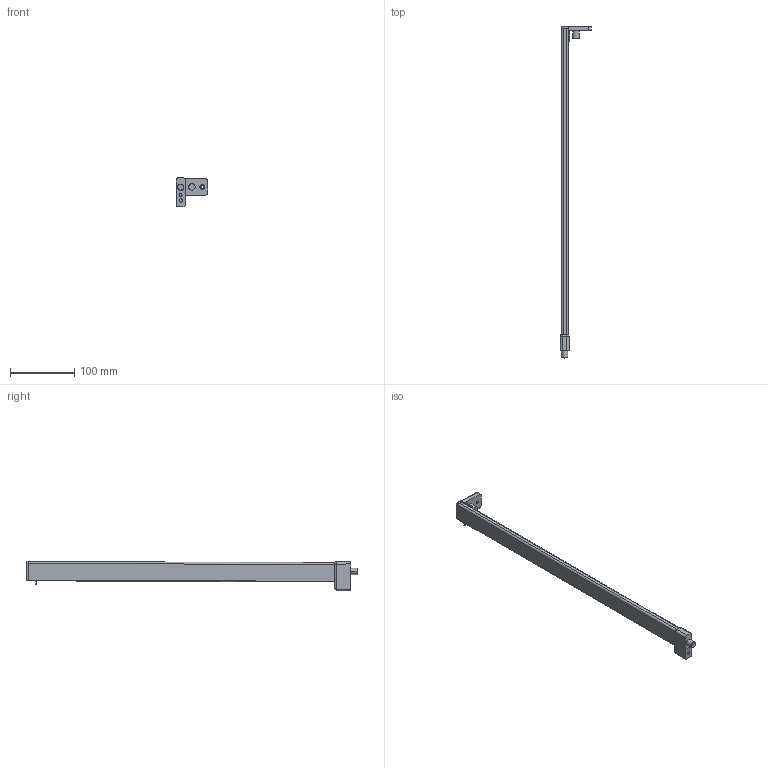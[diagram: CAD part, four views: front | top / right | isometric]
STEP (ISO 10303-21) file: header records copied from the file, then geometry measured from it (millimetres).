
FILE_DESCRIPTION (( 'STEP AP214' ), '1' );
FILE_NAME ('_2S_REL_7606_NL500_LI.step', '2010-07-01T14:41:47', ( 'grass' ), ( '' ), 'SwSTEP 2.0', 'SolidWorks 2009', '' );
FILE_SCHEMA (( 'AUTOMOTIVE_DESIGN' ));
Length unit declared in the file: millimetre
Products named in the file (1): _2S_REL_7606_NL500_LI
Bounding box: 49.25 x 515.5 x 45.4 mm (x, y, z)
Volume: 169593.3 mm3; surface area: 45324.3 mm2
Topology: 2 solids, 2 shells, 120 faces, 292 edges, 178 vertices
Faces by surface type: cylinder 58, plane 40, bspline 10, torus 6, cone 4, sphere 2
Entity records: 4528 total; most frequent: CARTESIAN_POINT 1803, ORIENTED_EDGE 580, DIRECTION 546, EDGE_CURVE 290, AXIS2_PLACEMENT_3D 203, VERTEX_POINT 178, LINE 140, VECTOR 140
